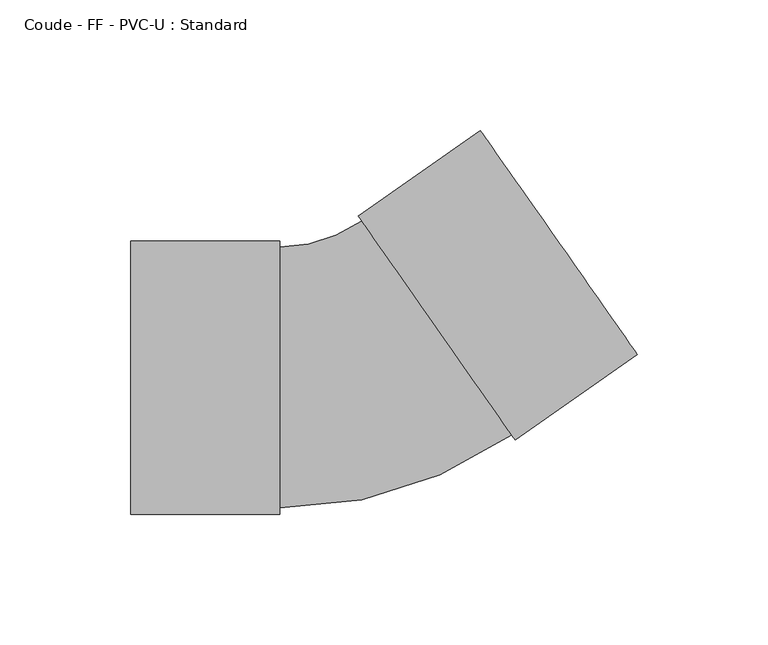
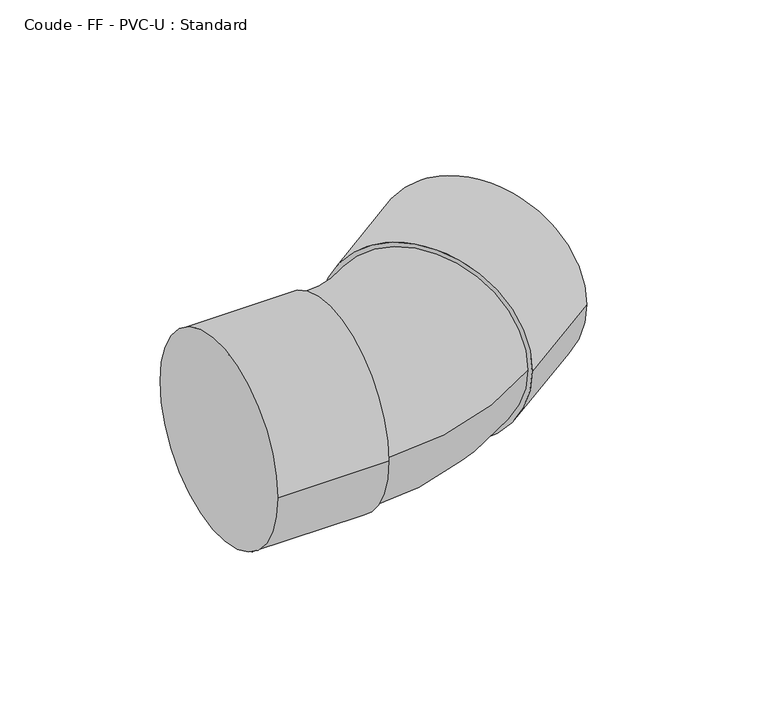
"""IFC4 building model written with IfcOpenShell, lengths in millimetres: pipe fitting geometry, Coude - FF - PVC-U : Standard."""

from ifc_helpers import new_model, si_unit, point, frame, origin, place, context, project, spatial, circle_curve, ellipse_curve, trimmed, source, transform, mapped, element, save
from ifc_brep_helpers import plane_surface, cylinder_surface, revolved_surface, advanced_brep


def coude_ff_pvc_u_standard_b12747aa(model_context):
    return source(origin(), model_context, "Body", "AdvancedBrep", [
        advanced_brep(
        [(-90.0, -52.3, 0.0), (-90.0, 52.3, 0.0), (-33.0, -52.3, 0.0), (-33.0, 52.3, 0.0), (-33.0, -50.0, 0.0), (-33.0, 50.0, 0.0), (-1.6468044, 59.8856246, 0.0), (55.7108393, -22.0295798, 0.0), (57.0300651, -23.9136295, 0.0), (-2.9660302, 61.7696743, 0.0), (103.7217316, 8.7802274, 0.0), (43.7256364, 94.4635312, 0.0)],
        [
            (0, 1, circle_curve(frame((-90.0, 0.0, 0.0), z_axis=(-1.0, 0.0, 0.0), x_axis=(0.0, 1.0, 0.0)), 52.3)),
            (1, 0, circle_curve(frame((-90.0, 0.0, 0.0), z_axis=(-1.0, 0.0, 0.0), x_axis=(0.0, 1.0, 0.0)), 52.3)),
            (2, 3, circle_curve(frame((-33.0, 0.0, 0.0), z_axis=(1.0, 0.0, 0.0), x_axis=(0.0, 1.0, 0.0)), 52.3)),
            (3, 2, circle_curve(frame((-33.0, 0.0, 0.0), z_axis=(1.0, 0.0, 0.0), x_axis=(0.0, 1.0, 0.0)), 52.3)),
            (4, 5, circle_curve(frame((-33.0, 0.0, 0.0), z_axis=(-1.0, 0.0, 0.0), x_axis=(0.0, 1.0, 0.0)), 50.0)),
            (5, 4, circle_curve(frame((-33.0, 0.0, 0.0), z_axis=(-1.0, 0.0, 0.0), x_axis=(0.0, 1.0, 0.0)), 50.0)),
            (0, 2),
            (3, 1),
            (6, 5, circle_curve(frame((-33.0, 104.6626285, 0.0), z_axis=(0.0, 0.0, -1.0), x_axis=(0.0, -1.0, 0.0)), 54.6626285)),
            (4, 7, circle_curve(frame((-33.0, 104.6626285, 0.0), z_axis=(0.0, 0.0, 1.0), x_axis=(0.0, -1.0, 0.0)), 154.6626285)),
            (7, 6, circle_curve(frame((27.0320175, 18.9280224, 0.0), z_axis=(-0.819152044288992, -0.5735764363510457, 0.0), x_axis=(-0.5735764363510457, 0.819152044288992, 0.0)), 50.0)),
            (6, 7, circle_curve(frame((27.0320175, 18.9280224, 0.0), z_axis=(-0.819152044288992, -0.5735764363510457, 0.0), x_axis=(-0.5735764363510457, 0.819152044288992, 0.0)), 50.0)),
            (8, 9, circle_curve(frame((27.0320175, 18.9280224, 0.0), z_axis=(-0.819152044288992, -0.5735764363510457, 0.0), x_axis=(-0.5735764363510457, 0.819152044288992, 0.0)), 52.3)),
            (9, 8, circle_curve(frame((27.0320175, 18.9280224, 0.0), z_axis=(-0.819152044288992, -0.5735764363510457, 0.0), x_axis=(-0.5735764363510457, 0.819152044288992, 0.0)), 52.3)),
            (10, 11, circle_curve(frame((73.723684, 51.6218793, 0.0), z_axis=(0.819152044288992, 0.5735764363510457, 0.0), x_axis=(-0.5735764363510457, 0.819152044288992, 0.0)), 52.3)),
            (11, 10, circle_curve(frame((73.723684, 51.6218793, 0.0), z_axis=(0.819152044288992, 0.5735764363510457, 0.0), x_axis=(-0.5735764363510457, 0.819152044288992, 0.0)), 52.3)),
            (8, 10),
            (11, 9),
        ],
        [
            plane_surface(frame((-90.0, 0.0, 0.0), z_axis=(-1.0, 0.0, 0.0), x_axis=(0.0, 0.0, 1.0))),
            plane_surface(frame((-33.0, 0.0, 0.0), z_axis=(1.0, 0.0, 0.0), x_axis=(0.0, 0.0, 1.0))),
            cylinder_surface(frame((-90.0, 0.0, 0.0), z_axis=(-1.0, 0.0, 0.0), x_axis=(0.0, 1.0, 0.0)), 52.3),
            revolved_surface(trimmed(ellipse_curve(frame((-33.0, 0.0, 0.0), z_axis=(-1.0, 0.0, 0.0), x_axis=(0.0, 1.0, 0.0)), 50.0, 50.0), [point((-33.0, -50.0, 0.0))], [point((-33.0, 50.0, 0.0))], True, "CARTESIAN"), (-33.0, 104.6626285, 0.0), (0.0, 0.0, 1.0)),
            revolved_surface(trimmed(ellipse_curve(frame((-33.0, 0.0, 0.0), z_axis=(-1.0, 0.0, 0.0), x_axis=(0.0, 1.0, 0.0)), 50.0, 50.0), [point((-33.0, 50.0, 0.0))], [point((-33.0, -50.0, 0.0))], True, "CARTESIAN"), (-33.0, 104.6626285, 0.0), (0.0, 0.0, 1.0)),
            plane_surface(frame((27.0320175, 18.9280224, 0.0), z_axis=(-0.819152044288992, -0.5735764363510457, 0.0), x_axis=(0.0, 0.0, 1.0))),
            plane_surface(frame((73.723684, 51.6218793, 0.0), z_axis=(0.819152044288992, 0.5735764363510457, 0.0), x_axis=(0.0, 0.0, 1.0))),
            cylinder_surface(frame((27.0320175, 18.9280224, 0.0), z_axis=(-0.819152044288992, -0.5735764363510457, 0.0), x_axis=(-0.5735764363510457, 0.819152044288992, 0.0)), 52.3),
        ],
        [
            (0, [[1, 2]]),
            (1, [[3, 4], [5, 6]]),
            (2, [[-1, 7, -4, 8]]),
            (2, [[-2, -8, -3, -7]]),
            (3, [[9, -5, 10, 11]]),
            (4, [[-9, 12, -10, -6]]),
            (5, [[13, 14], [-11, -12]]),
            (6, [[15, 16]]),
            (7, [[-13, 17, -16, 18]]),
            (7, [[-14, -18, -15, -17]]),
        ],
    ),
    ])


if __name__ == "__main__":
    model = new_model("IFC4")
    model_context = context("Model", 3, world=origin())
    ifc_project = project(units=[si_unit("LENGTHUNIT", "METRE", prefix="MILLI")], contexts=[model_context])
    site = spatial("IfcSite", under=ifc_project)
    building = spatial("IfcBuilding", under=site)
    placement = place(None, origin())
    coude_ff_pvc_u_standard_shape = coude_ff_pvc_u_standard_b12747aa(model_context)
    element("IfcPipeFitting", 1, ObjectType="Coude - FF - PVC-U : Standard", at=placement, inside=building, context=model_context, shape_type="MappedRepresentation", body=[
        mapped(coude_ff_pvc_u_standard_shape, transform((0.0, 0.0, 0.0), x_axis=(1.0, 0.0, 0.0), y_axis=(0.0, 1.0, 0.0), z_axis=(0.0, 0.0, 1.0))),
    ])
    save(model, "model.ifc")
